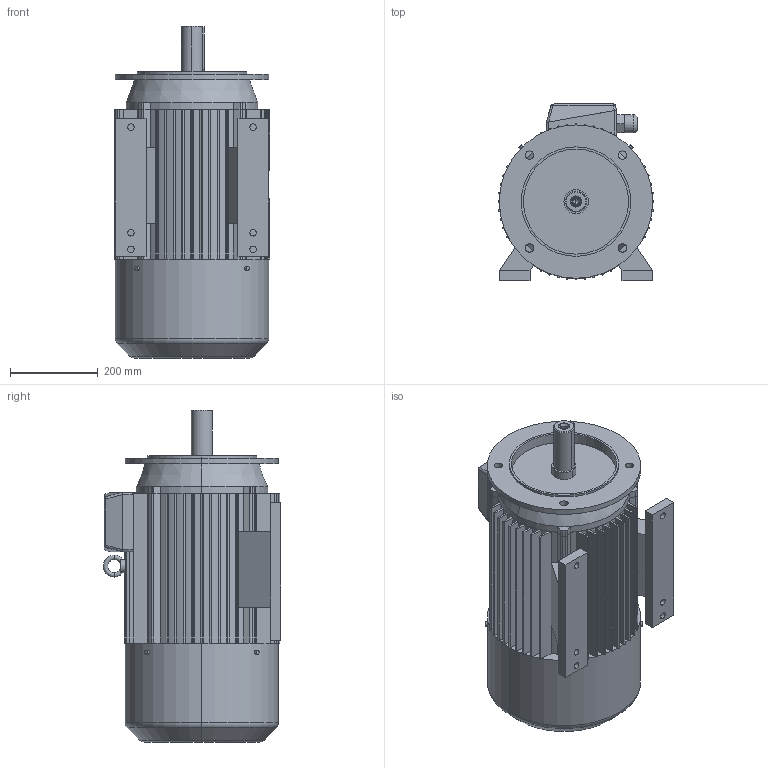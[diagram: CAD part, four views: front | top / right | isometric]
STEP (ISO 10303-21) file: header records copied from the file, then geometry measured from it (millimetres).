
FILE_DESCRIPTION (( 'STEP AP203' ), '1' );
FILE_NAME ('2SIEL180L2,4A,6A.STEP', '2013-01-07T13:35:43', ( 'INDUKTA' ), ( 'CANTONI MOTOR' ), 'SwSTEP 2.0', 'SolidWorks 2003064', '' );
FILE_SCHEMA (( 'CONFIG_CONTROL_DESIGN' ));
Length unit declared in the file: millimetre
Products named in the file (1): 2SIEL180L2,4A,6A
Bounding box: 354.99 x 405 x 758 mm (x, y, z)
Volume: 56124003.7 mm3; surface area: 2241160.7 mm2
Topology: 14 solids, 14 shells, 430 faces, 1125 edges, 721 vertices
Faces by surface type: plane 201, cylinder 195, torus 16, cone 14, sphere 4
Entity records: 13550 total; most frequent: CARTESIAN_POINT 2582, DIRECTION 2380, ORIENTED_EDGE 2238, EDGE_CURVE 1119, AXIS2_PLACEMENT_3D 855, VERTEX_POINT 721, LINE 670, VECTOR 670
